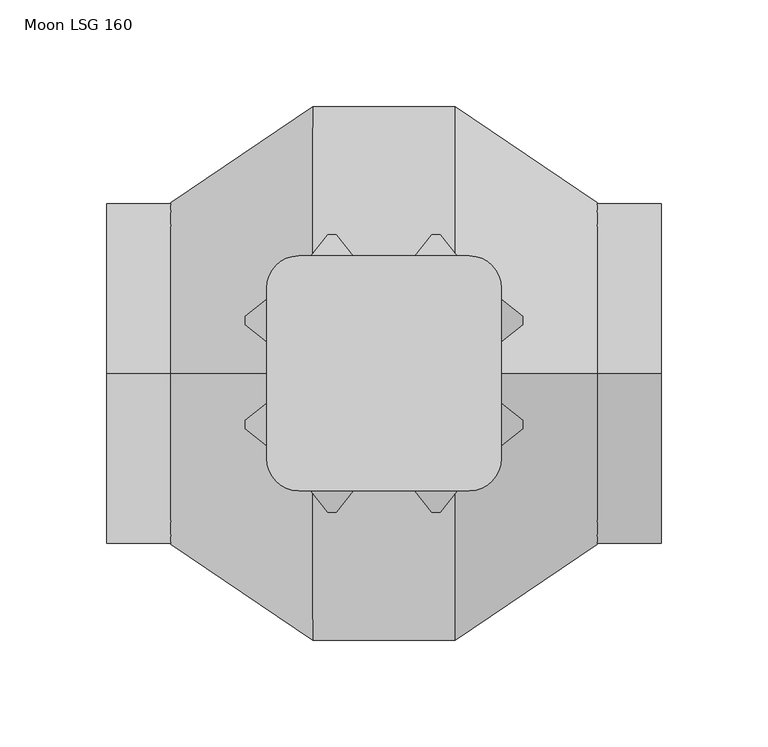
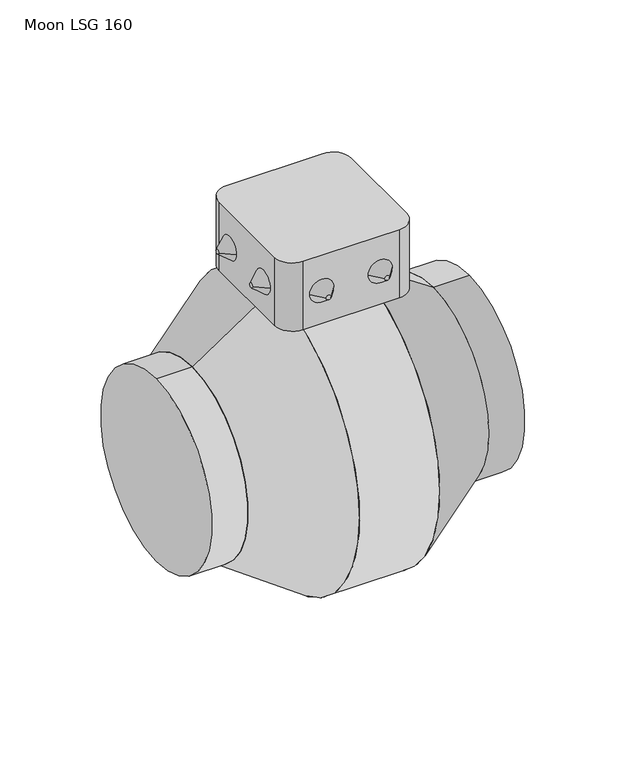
"""IFC4 building model written with IfcOpenShell, lengths in millimetres: proxy geometry, APMV_ГК МКС_Вентилятор канальный : Moon LSG 160."""

from ifc_helpers import new_model, si_unit, point, frame, frame_2d, origin, origin_2d, place, context, project, spatial, polyline, circle_curve, trimmed, segment, composite_curve, outline, extrude, source, transform, mapped, element, save
from ifc_brep_helpers import plane_surface, revolved_surface, advanced_brep


def moon_lsg_160_de0f77c1(model_context):
    return source(origin(), model_context, "Body", "SolidModel", [
        advanced_brep(
        [(195.0, 26.7092609, 153.9311792), (195.0, 22.7092609, 153.9311792), (185.0, 34.7092609, 153.9311792), (185.0, 14.7092609, 153.9311792)],
        [
            (0, 1, circle_curve(frame((195.0, 24.7092609, 153.9311792), z_axis=(1.0, 0.0, 0.0), x_axis=(0.0, 1.0, 0.0)), 2.0)),
            (1, 0, circle_curve(frame((195.0, 24.7092609, 153.9311792), z_axis=(1.0, 0.0, 0.0), x_axis=(0.0, -1.0, 0.0)), 2.0)),
            (2, 3, circle_curve(frame((185.0, 24.7092609, 153.9311792), z_axis=(-1.0, 0.0, 0.0), x_axis=(0.0, -1.0, 0.0)), 10.0)),
            (3, 2, circle_curve(frame((185.0, 24.7092609, 153.9311792), z_axis=(-1.0, 0.0, 0.0), x_axis=(0.0, 1.0, 0.0)), 10.0)),
            (2, 0),
            (1, 3),
        ],
        [
            plane_surface(frame((195.0, 24.7092609, 153.9311792), z_axis=(1.0, 0.0, 0.0), x_axis=(0.0, 0.0, 1.0))),
            plane_surface(frame((185.0, 24.7092609, 153.9311792), z_axis=(-1.0, 0.0, 0.0), x_axis=(0.0, 0.0, 1.0))),
            revolved_surface(polyline([(195.0, 22.7092609, 153.9311792), (185.0, 14.7092609, 153.9311792)]), (197.5, 24.7092609, 153.9311792), (-1.0, 0.0, 0.0)),
            revolved_surface(polyline([(195.0, 26.7092609, 153.9311792), (185.0, 34.7092609, 153.9311792)]), (197.5, 24.7092609, 153.9311792), (-1.0, 0.0, 0.0)),
        ],
        [
            (0, [[1, 2]]),
            (1, [[3, 4]]),
            (2, [[-3, 5, -2, 6]]),
            (3, [[-4, -6, -1, -5]]),
        ],
    ),
        advanced_brep(
        [(195.0, -25.9468836, 153.9311792), (195.0, -21.9468836, 153.9311792), (185.0, -33.9468836, 153.9311792), (185.0, -13.9468836, 153.9311792)],
        [
            (0, 1, circle_curve(frame((195.0, -23.9468836, 153.9311792), z_axis=(1.0, 0.0, 0.0), x_axis=(0.0, -1.0, 0.0)), 2.0)),
            (1, 0, circle_curve(frame((195.0, -23.9468836, 153.9311792), z_axis=(1.0, 0.0, 0.0), x_axis=(0.0, 1.0, 0.0)), 2.0)),
            (2, 3, circle_curve(frame((185.0, -23.9468836, 153.9311792), z_axis=(-1.0, 0.0, 0.0), x_axis=(0.0, 1.0, 0.0)), 10.0)),
            (3, 2, circle_curve(frame((185.0, -23.9468836, 153.9311792), z_axis=(-1.0, 0.0, 0.0), x_axis=(0.0, -1.0, 0.0)), 10.0)),
            (3, 1),
            (0, 2),
        ],
        [
            plane_surface(frame((195.0, -23.9468836, 153.9311792), z_axis=(1.0, 0.0, 0.0), x_axis=(0.0, 0.0, -1.0))),
            plane_surface(frame((185.0, -23.9468836, 153.9311792), z_axis=(-1.0, 0.0, 0.0), x_axis=(0.0, 0.0, -1.0))),
            revolved_surface(polyline([(195.0, -25.9468836, 153.9311792), (185.0, -33.9468836, 153.9311792)]), (197.5, -23.9468836, 153.9311792), (-1.0, 0.0, 0.0)),
            revolved_surface(polyline([(195.0, -21.9468836, 153.9311792), (185.0, -13.9468836, 153.9311792)]), (197.5, -23.9468836, 153.9311792), (-1.0, 0.0, 0.0)),
        ],
        [
            (0, [[1, 2]]),
            (1, [[3, 4]]),
            (2, [[-4, 5, -1, 6]]),
            (3, [[-3, -6, -2, -5]]),
        ],
    ),
        advanced_brep(
        [(65.0, 26.7092609, 153.9311792), (65.0, 22.7092609, 153.9311792), (75.0, 34.7092609, 153.9311792), (75.0, 14.7092609, 153.9311792)],
        [
            (0, 1, circle_curve(frame((65.0, 24.7092609, 153.9311792), z_axis=(-1.0, 0.0, 0.0), x_axis=(0.0, 1.0, 0.0)), 2.0)),
            (1, 0, circle_curve(frame((65.0, 24.7092609, 153.9311792), z_axis=(-1.0, 0.0, 0.0), x_axis=(0.0, -1.0, 0.0)), 2.0)),
            (2, 3, circle_curve(frame((75.0, 24.7092609, 153.9311792), z_axis=(1.0, 0.0, 0.0), x_axis=(0.0, -1.0, 0.0)), 10.0)),
            (3, 2, circle_curve(frame((75.0, 24.7092609, 153.9311792), z_axis=(1.0, 0.0, 0.0), x_axis=(0.0, 1.0, 0.0)), 10.0)),
            (3, 1),
            (0, 2),
        ],
        [
            plane_surface(frame((65.0, 24.7092609, 153.9311792), z_axis=(-1.0, 0.0, 0.0), x_axis=(0.0, 0.0, -1.0))),
            plane_surface(frame((75.0, 24.7092609, 153.9311792), z_axis=(1.0, 0.0, 0.0), x_axis=(0.0, 0.0, -1.0))),
            revolved_surface(polyline([(65.0, 26.7092609, 153.9311792), (75.0, 34.7092609, 153.9311792)]), (62.5, 24.7092609, 153.9311792), (1.0, 0.0, 0.0)),
            revolved_surface(polyline([(65.0, 22.7092609, 153.9311792), (75.0, 14.7092609, 153.9311792)]), (62.5, 24.7092609, 153.9311792), (1.0, 0.0, 0.0)),
        ],
        [
            (0, [[1, 2]]),
            (1, [[3, 4]]),
            (2, [[-4, 5, -1, 6]]),
            (3, [[-3, -6, -2, -5]]),
        ],
    ),
        advanced_brep(
        [(65.0, -25.9468836, 153.9311792), (65.0, -21.9468836, 153.9311792), (75.0, -33.9468836, 153.9311792), (75.0, -13.9468836, 153.9311792)],
        [
            (0, 1, circle_curve(frame((65.0, -23.9468836, 153.9311792), z_axis=(-1.0, 0.0, 0.0), x_axis=(0.0, -1.0, 0.0)), 2.0)),
            (1, 0, circle_curve(frame((65.0, -23.9468836, 153.9311792), z_axis=(-1.0, 0.0, 0.0), x_axis=(0.0, 1.0, 0.0)), 2.0)),
            (2, 3, circle_curve(frame((75.0, -23.9468836, 153.9311792), z_axis=(1.0, 0.0, 0.0), x_axis=(0.0, 1.0, 0.0)), 10.0)),
            (3, 2, circle_curve(frame((75.0, -23.9468836, 153.9311792), z_axis=(1.0, 0.0, 0.0), x_axis=(0.0, -1.0, 0.0)), 10.0)),
            (2, 0),
            (1, 3),
        ],
        [
            plane_surface(frame((65.0, -23.9468836, 153.9311792), z_axis=(-1.0, 0.0, 0.0), x_axis=(0.0, 0.0, 1.0))),
            plane_surface(frame((75.0, -23.9468836, 153.9311792), z_axis=(1.0, 0.0, 0.0), x_axis=(0.0, 0.0, 1.0))),
            revolved_surface(polyline([(65.0, -21.9468836, 153.9311792), (75.0, -13.9468836, 153.9311792)]), (62.5, -23.9468836, 153.9311792), (1.0, 0.0, 0.0)),
            revolved_surface(polyline([(65.0, -25.9468836, 153.9311792), (75.0, -33.9468836, 153.9311792)]), (62.5, -23.9468836, 153.9311792), (1.0, 0.0, 0.0)),
        ],
        [
            (0, [[1, 2]]),
            (1, [[3, 4]]),
            (2, [[-3, 5, -2, 6]]),
            (3, [[-4, -6, -1, -5]]),
        ],
    ),
        advanced_brep(
        [(156.3280722, 65.0, 153.9311792), (152.3280722, 65.0, 153.9311792), (164.3280722, 55.0, 153.9311792), (144.3280722, 55.0, 153.9311792)],
        [
            (0, 1, circle_curve(frame((154.3280722, 65.0, 153.9311792), z_axis=(0.0, 1.0, 0.0), x_axis=(1.0, 0.0, 0.0)), 2.0)),
            (1, 0, circle_curve(frame((154.3280722, 65.0, 153.9311792), z_axis=(0.0, 1.0, 0.0), x_axis=(-1.0, 0.0, 0.0)), 2.0)),
            (2, 3, circle_curve(frame((154.3280722, 55.0, 153.9311792), z_axis=(0.0, -1.0, 0.0), x_axis=(-1.0, 0.0, 0.0)), 10.0)),
            (3, 2, circle_curve(frame((154.3280722, 55.0, 153.9311792), z_axis=(0.0, -1.0, 0.0), x_axis=(1.0, 0.0, 0.0)), 10.0)),
            (3, 1),
            (0, 2),
        ],
        [
            plane_surface(frame((154.3280722, 65.0, 153.9311792), z_axis=(0.0, 1.0, 0.0), x_axis=(0.0, 0.0, -1.0))),
            plane_surface(frame((154.3280722, 55.0, 153.9311792), z_axis=(0.0, -1.0, 0.0), x_axis=(0.0, 0.0, -1.0))),
            revolved_surface(polyline([(156.3280722, 65.0, 153.9311792), (164.3280722, 55.0, 153.9311792)]), (154.3280722, 67.5, 153.9311792), (0.0, -1.0, 0.0)),
            revolved_surface(polyline([(152.3280722, 65.0, 153.9311792), (144.3280722, 55.0, 153.9311792)]), (154.3280722, 67.5, 153.9311792), (0.0, -1.0, 0.0)),
        ],
        [
            (0, [[1, 2]]),
            (1, [[3, 4]]),
            (2, [[-4, 5, -1, 6]]),
            (3, [[-3, -6, -2, -5]]),
        ],
    ),
        advanced_brep(
        [(103.6719278, 65.0, 153.9311792), (107.6719278, 65.0, 153.9311792), (95.6719278, 55.0, 153.9311792), (115.6719278, 55.0, 153.9311792)],
        [
            (0, 1, circle_curve(frame((105.6719278, 65.0, 153.9311792), z_axis=(0.0, 1.0, 0.0), x_axis=(-1.0, 0.0, 0.0)), 2.0)),
            (1, 0, circle_curve(frame((105.6719278, 65.0, 153.9311792), z_axis=(0.0, 1.0, 0.0), x_axis=(1.0, 0.0, 0.0)), 2.0)),
            (2, 3, circle_curve(frame((105.6719278, 55.0, 153.9311792), z_axis=(0.0, -1.0, 0.0), x_axis=(1.0, 0.0, 0.0)), 10.0)),
            (3, 2, circle_curve(frame((105.6719278, 55.0, 153.9311792), z_axis=(0.0, -1.0, 0.0), x_axis=(-1.0, 0.0, 0.0)), 10.0)),
            (2, 0),
            (1, 3),
        ],
        [
            plane_surface(frame((105.6719278, 65.0, 153.9311792), z_axis=(0.0, 1.0, 0.0), x_axis=(0.0, 0.0, 1.0))),
            plane_surface(frame((105.6719278, 55.0, 153.9311792), z_axis=(0.0, -1.0, 0.0), x_axis=(0.0, 0.0, 1.0))),
            revolved_surface(polyline([(107.6719278, 65.0, 153.9311792), (115.6719278, 55.0, 153.9311792)]), (105.6719278, 67.5, 153.9311792), (0.0, -1.0, 0.0)),
            revolved_surface(polyline([(103.6719278, 65.0, 153.9311792), (95.6719278, 55.0, 153.9311792)]), (105.6719278, 67.5, 153.9311792), (0.0, -1.0, 0.0)),
        ],
        [
            (0, [[1, 2]]),
            (1, [[3, 4]]),
            (2, [[-3, 5, -2, 6]]),
            (3, [[-4, -6, -1, -5]]),
        ],
    ),
        advanced_brep(
        [(156.3280722, -65.0, 153.9311792), (152.3280722, -65.0, 153.9311792), (164.3280722, -55.0, 153.9311792), (144.3280722, -55.0, 153.9311792)],
        [
            (0, 1, circle_curve(frame((154.3280722, -65.0, 153.9311792), z_axis=(0.0, -1.0, 0.0), x_axis=(1.0, 0.0, 0.0)), 2.0)),
            (1, 0, circle_curve(frame((154.3280722, -65.0, 153.9311792), z_axis=(0.0, -1.0, 0.0), x_axis=(-1.0, 0.0, 0.0)), 2.0)),
            (2, 3, circle_curve(frame((154.3280722, -55.0, 153.9311792), z_axis=(0.0, 1.0, 0.0), x_axis=(-1.0, 0.0, 0.0)), 10.0)),
            (3, 2, circle_curve(frame((154.3280722, -55.0, 153.9311792), z_axis=(0.0, 1.0, 0.0), x_axis=(1.0, 0.0, 0.0)), 10.0)),
            (2, 0),
            (1, 3),
        ],
        [
            plane_surface(frame((154.3280722, -65.0, 153.9311792), z_axis=(0.0, -1.0, 0.0), x_axis=(0.0, 0.0, 1.0))),
            plane_surface(frame((154.3280722, -55.0, 153.9311792), z_axis=(0.0, 1.0, 0.0), x_axis=(0.0, 0.0, 1.0))),
            revolved_surface(polyline([(152.3280722, -65.0, 153.9311792), (144.3280722, -55.0, 153.9311792)]), (154.3280722, -67.5, 153.9311792), (0.0, 1.0, 0.0)),
            revolved_surface(polyline([(156.3280722, -65.0, 153.9311792), (164.3280722, -55.0, 153.9311792)]), (154.3280722, -67.5, 153.9311792), (0.0, 1.0, 0.0)),
        ],
        [
            (0, [[1, 2]]),
            (1, [[3, 4]]),
            (2, [[-3, 5, -2, 6]]),
            (3, [[-4, -6, -1, -5]]),
        ],
    ),
        advanced_brep(
        [(103.6719278, -65.0, 153.9311792), (107.6719278, -65.0, 153.9311792), (95.6719278, -55.0, 153.9311792), (115.6719278, -55.0, 153.9311792)],
        [
            (0, 1, circle_curve(frame((105.6719278, -65.0, 153.9311792), z_axis=(0.0, -1.0, 0.0), x_axis=(-1.0, 0.0, 0.0)), 2.0)),
            (1, 0, circle_curve(frame((105.6719278, -65.0, 153.9311792), z_axis=(0.0, -1.0, 0.0), x_axis=(1.0, 0.0, 0.0)), 2.0)),
            (2, 3, circle_curve(frame((105.6719278, -55.0, 153.9311792), z_axis=(0.0, 1.0, 0.0), x_axis=(1.0, 0.0, 0.0)), 10.0)),
            (3, 2, circle_curve(frame((105.6719278, -55.0, 153.9311792), z_axis=(0.0, 1.0, 0.0), x_axis=(-1.0, 0.0, 0.0)), 10.0)),
            (3, 1),
            (0, 2),
        ],
        [
            plane_surface(frame((105.6719278, -65.0, 153.9311792), z_axis=(0.0, -1.0, 0.0), x_axis=(0.0, 0.0, -1.0))),
            plane_surface(frame((105.6719278, -55.0, 153.9311792), z_axis=(0.0, 1.0, 0.0), x_axis=(0.0, 0.0, -1.0))),
            revolved_surface(polyline([(103.6719278, -65.0, 153.9311792), (95.6719278, -55.0, 153.9311792)]), (105.6719278, -67.5, 153.9311792), (0.0, 1.0, 0.0)),
            revolved_surface(polyline([(107.6719278, -65.0, 153.9311792), (115.6719278, -55.0, 153.9311792)]), (105.6719278, -67.5, 153.9311792), (0.0, 1.0, 0.0)),
        ],
        [
            (0, [[1, 2]]),
            (1, [[3, 4]]),
            (2, [[-4, 5, -1, 6]]),
            (3, [[-3, -6, -2, -5]]),
        ],
    ),
        extrude(outline(composite_curve([segment(trimmed(circle_curve(frame_2d((170.0, 40.0)), 15.0), [point((170.0, 55.0))], [point((185.0, 40.0))], False, "CARTESIAN"), True, "CONTINUOUS"), segment(polyline([(185.0, 40.0), (185.0, -40.0)]), True, "CONTINUOUS"), segment(trimmed(circle_curve(frame_2d((170.0, -40.0)), 15.0), [point((185.0, -40.0))], [point((170.0, -55.0))], False, "CARTESIAN"), True, "CONTINUOUS"), segment(polyline([(170.0, -55.0), (90.0, -55.0)]), True, "CONTINUOUS"), segment(trimmed(circle_curve(frame_2d((90.0, -40.0)), 15.0), [point((90.0, -55.0))], [point((75.0, -40.0))], False, "CARTESIAN"), True, "CONTINUOUS"), segment(polyline([(75.0, -40.0), (75.0, 40.0)]), True, "CONTINUOUS"), segment(trimmed(circle_curve(frame_2d((90.0, 40.0)), 15.0), [point((75.0, 40.0))], [point((90.0, 55.0))], False, "CARTESIAN"), True, "CONTINUOUS"), segment(polyline([(90.0, 55.0), (170.0, 55.0)]), True, "CONTINUOUS")], self_intersect=False)), frame((0.0, 0.0, 125.0), z_axis=(0.0, 0.0, 1.0), x_axis=(1.0, 0.0, 0.0)), (0.0, 0.0, 1.0), 60.0),
        advanced_brep(
        [(230.0, 0.0, -80.0), (230.0, 0.0, 80.0), (163.3333333, 0.0, -125.0), (163.3333333, 0.0, 125.0)],
        [
            (0, 1, circle_curve(frame((230.0, 0.0, 0.0), z_axis=(1.0, 0.0, 0.0), x_axis=(0.0, 0.0, -1.0)), 80.0)),
            (1, 0, circle_curve(frame((230.0, 0.0, 0.0), z_axis=(1.0, 0.0, 0.0), x_axis=(0.0, 0.0, 1.0)), 80.0)),
            (2, 3, circle_curve(frame((163.3333333, 0.0, 0.0), z_axis=(-1.0, 0.0, 0.0), x_axis=(0.0, 0.0, 1.0)), 125.0)),
            (3, 2, circle_curve(frame((163.3333333, 0.0, 0.0), z_axis=(-1.0, 0.0, 0.0), x_axis=(0.0, 0.0, -1.0)), 125.0)),
            (3, 1),
            (0, 2),
        ],
        [
            plane_surface(frame((230.0, 0.0, 0.0), z_axis=(1.0, 0.0, 0.0), x_axis=(0.0, -1.0, 0.0))),
            plane_surface(frame((163.3333333, 0.0, 0.0), z_axis=(-1.0, 0.0, 0.0), x_axis=(0.0, -1.0, 0.0))),
            revolved_surface(polyline([(230.0, 0.0, -79.9999999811), (163.3333333, 0.0, -125.0)]), (348.5185185, 0.0, 0.0), (-1.0, 0.0, 0.0)),
            revolved_surface(polyline([(230.0, 0.0, 79.9999999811), (163.3333333, 0.0, 125.0)]), (348.5185185, 0.0, 0.0), (-1.0, 0.0, 0.0)),
        ],
        [
            (0, [[1, 2]]),
            (1, [[3, 4]]),
            (2, [[-4, 5, -1, 6]]),
            (3, [[-3, -6, -2, -5]]),
        ],
    ),
        extrude(outline(composite_curve([segment(trimmed(circle_curve(origin_2d(), 80.0), [point((0.0, -80.0))], [point((0.0, 80.0))], False, "CARTESIAN"), True, "CONTINUOUS"), segment(trimmed(circle_curve(origin_2d(), 80.0), [point((0.0, 80.0))], [point((0.0, -80.0))], False, "CARTESIAN"), True, "CONTINUOUS")], self_intersect=False)), frame((230.0, 0.0, 0.0), z_axis=(1.0, 0.0, 0.0), x_axis=(0.0, 1.0, 0.0)), (0.0, 0.0, 1.0), 30.0),
        extrude(outline(composite_curve([segment(trimmed(circle_curve(origin_2d(), 125.0), [point((0.0, -125.0))], [point((0.0, 125.0))], False, "CARTESIAN"), True, "CONTINUOUS"), segment(trimmed(circle_curve(origin_2d(), 125.0), [point((0.0, 125.0))], [point((0.0, -125.0))], False, "CARTESIAN"), True, "CONTINUOUS")], self_intersect=False)), frame((96.6666667, 0.0, 0.0), z_axis=(1.0, 0.0, 0.0), x_axis=(0.0, 1.0, 0.0)), (0.0, 0.0, 1.0), 66.6666667),
        advanced_brep(
        [(30.0, 0.0, -80.0), (30.0, 0.0, 80.0), (96.6666667, 0.0, -125.0), (96.6666667, 0.0, 125.0)],
        [
            (0, 1, circle_curve(frame((30.0, 0.0, 0.0), z_axis=(-1.0, 0.0, 0.0), x_axis=(0.0, 0.0, -1.0)), 80.0)),
            (1, 0, circle_curve(frame((30.0, 0.0, 0.0), z_axis=(-1.0, 0.0, 0.0), x_axis=(0.0, 0.0, 1.0)), 80.0)),
            (2, 3, circle_curve(frame((96.6666667, 0.0, 0.0), z_axis=(1.0, 0.0, 0.0), x_axis=(0.0, 0.0, 1.0)), 125.0)),
            (3, 2, circle_curve(frame((96.6666667, 0.0, 0.0), z_axis=(1.0, 0.0, 0.0), x_axis=(0.0, 0.0, -1.0)), 125.0)),
            (2, 0),
            (1, 3),
        ],
        [
            plane_surface(frame((30.0, 0.0, 0.0), z_axis=(-1.0, 0.0, 0.0), x_axis=(0.0, 1.0, 0.0))),
            plane_surface(frame((96.6666667, 0.0, 0.0), z_axis=(1.0, 0.0, 0.0), x_axis=(0.0, 1.0, 0.0))),
            revolved_surface(polyline([(30.0, 0.0, 79.9999999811), (96.66666669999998, 0.0, 125.0)]), (-88.5185185, 0.0, 0.0), (1.0, 0.0, 0.0)),
            revolved_surface(polyline([(30.0, 0.0, -79.9999999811), (96.66666669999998, 0.0, -125.0)]), (-88.5185185, 0.0, 0.0), (1.0, 0.0, 0.0)),
        ],
        [
            (0, [[1, 2]]),
            (1, [[3, 4]]),
            (2, [[-3, 5, -2, 6]]),
            (3, [[-4, -6, -1, -5]]),
        ],
    ),
        extrude(outline(composite_curve([segment(trimmed(circle_curve(origin_2d(), 80.0), [point((0.0, -80.0))], [point((0.0, 80.0))], False, "CARTESIAN"), True, "CONTINUOUS"), segment(trimmed(circle_curve(origin_2d(), 80.0), [point((0.0, 80.0))], [point((0.0, -80.0))], False, "CARTESIAN"), True, "CONTINUOUS")], self_intersect=False)), frame((0.0, 0.0, 0.0), z_axis=(1.0, 0.0, 0.0), x_axis=(0.0, 1.0, 0.0)), (0.0, 0.0, 1.0), 30.0),
    ])


if __name__ == "__main__":
    model = new_model("IFC4")
    model_context = context("Model", 3, world=origin())
    ifc_project = project(units=[si_unit("LENGTHUNIT", "METRE", prefix="MILLI")], contexts=[model_context])
    site = spatial("IfcSite", under=ifc_project)
    building = spatial("IfcBuilding", under=site)
    placement = place(None, origin())
    moon_lsg_160_shape = moon_lsg_160_de0f77c1(model_context)
    element("IfcBuildingElementProxy", 1, Name="APMV_ГК МКС_Вентилятор канальный : Moon LSG 160", ObjectType="APMV_ГК МКС_Вентилятор канальный : Moon LSG 160", at=placement, inside=building, context=model_context, shape_type="MappedRepresentation", body=[
        mapped(moon_lsg_160_shape, transform((0.0, 0.0, 0.0), x_axis=(1.0, 0.0, 0.0), y_axis=(0.0, 1.0, 0.0), z_axis=(0.0, 0.0, 1.0))),
    ])
    save(model, "model.ifc")
